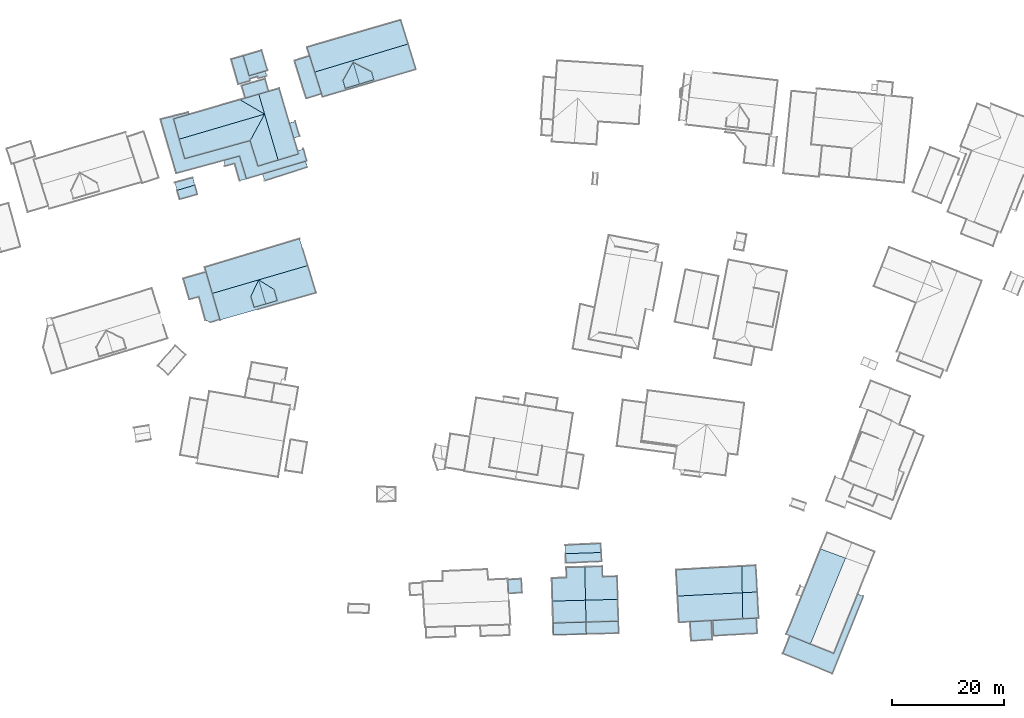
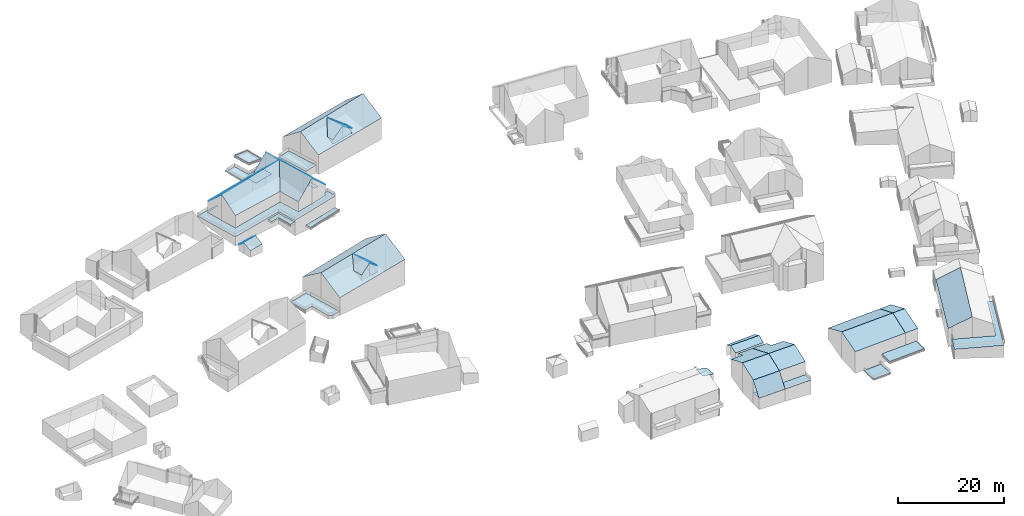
# Not in any storey, part 53 of 57: 86 roofs.
"""IFC2X3 building model written with IfcOpenShell, lengths in metres."""

from ifc_helpers import new_model, entity, si_unit, converted_unit, frame, origin, place, context, subcontext, project, spatial, face_set, surface_model, element, save


model = new_model("IFC2X3")

# Units and contexts
model_context = context("Model", 3, precision=1e-05, world=origin())
body_context = subcontext(model_context, "Body", "Model", "MODEL_VIEW")
ifc_project = project(units=[converted_unit("PLANEANGLEUNIT", "DEGREE", entity("IfcRatioMeasure", 0.0174532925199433), si_unit("PLANEANGLEUNIT", "RADIAN"), dimensions=[0, 0, 0, 0, 0, 0, 0]), si_unit("AREAUNIT", "SQUARE_METRE"), si_unit("LENGTHUNIT", "METRE")], contexts=[model_context])

# Site, building
site_placement = place(None, origin())
site = spatial("IfcSite", under=ifc_project, at=site_placement, Name="_site", CompositionType="ELEMENT")
building_1_placement = place(site_placement, origin())
building_1 = spatial("IfcBuilding", under=site, at=building_1_placement, Name="_building", CompositionType="ELEMENT")

# Roofs
roof_1_placement = place(building_1_placement, origin())
element("IfcRoof", 1, at=roof_1_placement, inside=building_1, Name="Roof", ShapeType="NOTDEFINED", context=body_context, shape_type="SurfaceModel", body=[
    surface_model("IfcFaceBasedSurfaceModel", [(217.513, 63.715, 111.83), (217.379, 69.629, 109.47), (214.115, 69.536, 109.47), (214.162, 67.713, 110.22), (211.529, 67.635, 110.18), (211.654, 63.559, 111.83)], [face_set([[[0, 1, 2, 3, 4, 5]]])]),
])
roof_2_placement = place(building_1_placement, origin())
element("IfcRoof", 2, at=roof_2_placement, inside=building_1, Name="Roof", ShapeType="NOTDEFINED", context=body_context, shape_type="SurfaceModel", body=[
    surface_model("IfcFaceBasedSurfaceModel", [(211.654, 63.559, 111.83), (211.762, 59.644, 110.18), (217.602, 59.81, 110.18), (217.513, 63.715, 111.83)], [face_set([[[0, 1, 2, 3]]])]),
])
roof_3_placement = place(building_1_placement, origin())
element("IfcRoof", 3, at=roof_3_placement, inside=building_1, Name="Roof", ShapeType="NOTDEFINED", context=body_context, shape_type="SurfaceModel", body=[
    surface_model("IfcFaceBasedSurfaceModel", [(217.513, 63.715, 111.83), (217.379, 69.629, 109.47), (214.115, 69.536, 109.47), (214.162, 67.713, 110.22), (211.529, 67.635, 110.18), (211.654, 63.559, 111.83)], [face_set([[[0, 1, 2, 3, 4, 5]]])]),
])
roof_4_placement = place(building_1_placement, origin())
element("IfcRoof", 4, at=roof_4_placement, inside=building_1, Name="Roof", ShapeType="NOTDEFINED", context=body_context, shape_type="SurfaceModel", body=[
    surface_model("IfcFaceBasedSurfaceModel", [(211.654, 63.559, 111.83), (211.762, 59.644, 110.18), (217.602, 59.81, 110.18), (217.513, 63.715, 111.83)], [face_set([[[0, 1, 2, 3]]])]),
])
roof_5_placement = place(building_1_placement, origin())
element("IfcRoof", 5, at=roof_5_placement, inside=building_1, Name="Roof", ShapeType="NOTDEFINED", context=body_context, shape_type="SurfaceModel", body=[
    surface_model("IfcFaceBasedSurfaceModel", [(211.762, 59.644, 110.18), (211.823, 57.552, 107.186), (217.65, 57.706, 107.17), (217.602, 59.81, 110.18)], [face_set([[[0, 1, 2, 3]]])]),
])
for number, where, name in (
    (6, (0.0, 0.0, 0.0), "Roof"),
    (7, (0.0, 0.0, 0.0), "Roof"),
):
    element("IfcRoof", number, at=place(building_1_placement, frame(where)), inside=building_1, Name=name, ShapeType="NOTDEFINED", context=body_context, shape_type="SurfaceModel", body=[
        surface_model("IfcFaceBasedSurfaceModel", [(217.65, 57.706, 107.22), (217.602, 59.81, 107.22), (211.762, 59.644, 107.22), (211.823, 57.552, 107.22)], [face_set([[[0, 1, 2, 3]]])]),
    ])
roof_6_placement = place(building_1_placement, origin())
element("IfcRoof", 8, at=roof_6_placement, inside=building_1, Name="Roof", ShapeType="NOTDEFINED", context=body_context, shape_type="SurfaceModel", body=[
    surface_model("IfcFaceBasedSurfaceModel", [(211.762, 59.644, 110.18), (211.823, 57.552, 107.186), (217.65, 57.706, 107.17), (217.602, 59.81, 110.18)], [face_set([[[0, 1, 2, 3]]])]),
])

# Building
building_2_placement = place(site_placement, origin())
building_2 = spatial("IfcBuilding", under=site, at=building_2_placement, Name="_building", CompositionType="ELEMENT")

# Roofs
roof_7_placement = place(building_2_placement, origin())
element("IfcRoof", 9, at=roof_7_placement, inside=building_2, Name="Roof", ShapeType="NOTDEFINED", context=body_context, shape_type="SurfaceModel", body=[
    surface_model("IfcFaceBasedSurfaceModel", [(168.113, 123.235, 120.71), (166.664, 128.012, 117.28), (149.794, 122.923, 117.33), (151.147, 118.279, 120.64), (159.38, 120.687, 120.674)], [face_set([[[0, 1, 2, 3, 4]]])]),
])
roof_8_placement = place(building_2_placement, origin())
element("IfcRoof", 10, at=roof_8_placement, inside=building_2, Name="Roof", ShapeType="NOTDEFINED", context=body_context, shape_type="SurfaceModel", body=[
    surface_model("IfcFaceBasedSurfaceModel", [(159.38, 120.687, 120.674), (157.999, 117.768, 119.0), (158.583, 115.793, 119.0), (160.648, 116.395, 120.67)], [face_set([[[0, 1, 2, 3]]])]),
])
roof_9_placement = place(building_2_placement, origin())
element("IfcRoof", 11, at=roof_9_placement, inside=building_2, Name="Roof", ShapeType="NOTDEFINED", context=body_context, shape_type="SurfaceModel", body=[
    surface_model("IfcFaceBasedSurfaceModel", [(159.38, 120.687, 120.674), (160.648, 116.395, 120.67), (162.704, 116.998, 119.01), (162.129, 118.973, 119.014)], [face_set([[[0, 1, 2, 3]]])]),
])
roof_10_placement = place(building_2_placement, origin())
element("IfcRoof", 12, at=roof_10_placement, inside=building_2, Name="Roof", ShapeType="NOTDEFINED", context=body_context, shape_type="SurfaceModel", body=[
    surface_model("IfcFaceBasedSurfaceModel", [(159.38, 120.687, 120.674), (151.147, 118.279, 120.64), (152.527, 113.543, 117.24), (169.581, 118.397, 117.21), (168.113, 123.235, 120.71)], [face_set([[[0, 1, 2, 3, 4]]])]),
])
roof_11_placement = place(building_2_placement, origin())
element("IfcRoof", 13, at=roof_11_placement, inside=building_2, Name="Roof", ShapeType="NOTDEFINED", context=body_context, shape_type="SurfaceModel", body=[
    surface_model("IfcFaceBasedSurfaceModel", [(168.113, 123.235, 120.71), (166.664, 128.012, 117.28), (149.794, 122.923, 117.33), (151.147, 118.279, 120.64), (159.38, 120.687, 120.674)], [face_set([[[0, 1, 2, 3, 4]]])]),
])
roof_12_placement = place(building_2_placement, origin())
element("IfcRoof", 14, at=roof_12_placement, inside=building_2, Name="Roof", ShapeType="NOTDEFINED", context=body_context, shape_type="SurfaceModel", body=[
    surface_model("IfcFaceBasedSurfaceModel", [(159.38, 120.687, 120.674), (160.648, 116.395, 120.67), (162.704, 116.998, 119.01), (162.129, 118.973, 119.014)], [face_set([[[0, 1, 2, 3]]])]),
])
roof_13_placement = place(building_2_placement, origin())
element("IfcRoof", 15, at=roof_13_placement, inside=building_2, Name="Roof", ShapeType="NOTDEFINED", context=body_context, shape_type="SurfaceModel", body=[
    surface_model("IfcFaceBasedSurfaceModel", [(159.38, 120.687, 120.674), (157.999, 117.768, 119.0), (158.583, 115.793, 119.0), (160.648, 116.395, 120.67)], [face_set([[[0, 1, 2, 3]]])]),
])
roof_14_placement = place(building_2_placement, origin())
element("IfcRoof", 16, at=roof_14_placement, inside=building_2, Name="Roof", ShapeType="NOTDEFINED", context=body_context, shape_type="SurfaceModel", body=[
    surface_model("IfcFaceBasedSurfaceModel", [(160.648, 116.395, 117.584), (162.704, 116.998, 117.593), (162.129, 118.973, 119.013), (159.38, 120.687, 120.673), (157.999, 117.768, 118.999), (158.583, 115.793, 117.577)], [face_set([[[0, 1, 2, 3, 4, 5]]])]),
])
for number, where, name in (
    (17, (0.0, 0.0, 0.0), "Roof"),
    (18, (0.0, 0.0, 0.0), "Roof"),
):
    element("IfcRoof", number, at=place(building_2_placement, frame(where)), inside=building_2, Name=name, ShapeType="NOTDEFINED", context=body_context, shape_type="SurfaceModel", body=[
        surface_model("IfcFaceBasedSurfaceModel", [(152.489, 113.665, 114.06), (150.035, 122.097, 114.06), (145.975, 120.931, 114.06), (147.059, 117.204, 114.06), (148.781, 117.684, 114.06), (149.915, 113.545, 114.06), (150.765, 113.115, 114.06)], [face_set([[[0, 1, 2, 3, 4, 5, 6]]])]),
    ])
roof_15_placement = place(building_2_placement, origin())
element("IfcRoof", 19, at=roof_15_placement, inside=building_2, Name="Roof", ShapeType="NOTDEFINED", context=body_context, shape_type="SurfaceModel", body=[
    surface_model("IfcFaceBasedSurfaceModel", [(159.38, 120.687, 120.674), (151.147, 118.279, 120.64), (152.527, 113.543, 117.24), (169.581, 118.397, 117.21), (168.113, 123.235, 120.71)], [face_set([[[0, 1, 2, 3, 4]]])]),
])

# Building
building_3_placement = place(site_placement, origin())
building_3 = spatial("IfcBuilding", under=site, at=building_3_placement, Name="_building", CompositionType="ELEMENT")

# Roofs
roof_16_placement = place(building_3_placement, origin())
element("IfcRoof", 20, at=roof_16_placement, inside=building_3, Name="Roof", ShapeType="NOTDEFINED", context=body_context, shape_type="SurfaceModel", body=[
    surface_model("IfcFaceBasedSurfaceModel", [(253.875, 57.367, 106.24), (252.611, 54.225, 106.24), (261.413, 50.677, 106.24), (266.937, 64.396, 106.24), (265.906, 64.801, 106.24), (261.656, 54.234, 106.24), (257.513, 55.902, 106.24)], [face_set([[[0, 1, 2, 3, 4, 5, 6]]])]),
])
for number, where, name in (
    (21, (0.0, 0.0, 0.0), "Roof"),
    (22, (0.0, 0.0, 0.0), "Roof"),
):
    element("IfcRoof", number, at=place(building_3_placement, frame(where)), inside=building_3, Name=name, ShapeType="NOTDEFINED", context=body_context, shape_type="SurfaceModel", body=[
        surface_model("IfcFaceBasedSurfaceModel", [(263.756, 71.207, 111.04), (259.33, 72.84, 108.76), (253.21, 57.623, 108.76), (253.875, 57.367, 109.11), (257.513, 55.902, 111.04)], [face_set([[[0, 1, 2, 3, 4]]])]),
    ])
roof_17_placement = place(building_3_placement, origin())
element("IfcRoof", 23, at=roof_17_placement, inside=building_3, Name="Roof", ShapeType="NOTDEFINED", context=body_context, shape_type="SurfaceModel", body=[
    surface_model("IfcFaceBasedSurfaceModel", [(253.875, 57.367, 106.24), (252.611, 54.225, 106.24), (261.413, 50.677, 106.24), (266.937, 64.396, 106.24), (265.906, 64.801, 106.24), (261.656, 54.234, 106.24), (257.513, 55.902, 106.24)], [face_set([[[0, 1, 2, 3, 4, 5, 6]]])]),
])

# Building
building_4_placement = place(site_placement, origin())
building_4 = spatial("IfcBuilding", under=site, at=building_4_placement, Name="_building", CompositionType="ELEMENT")

# Roofs
for number, where, name in (
    (24, (0.0, 0.0, 0.0), "Roof"),
    (25, (0.0, 0.0, 0.0), "Roof"),
):
    element("IfcRoof", number, at=place(building_4_placement, frame(where)), inside=building_4, Name=name, ShapeType="NOTDEFINED", context=body_context, shape_type="SurfaceModel", body=[
        surface_model("IfcFaceBasedSurfaceModel", [(240.15, 60.1, 106.04), (240.307, 57.395, 105.77), (248.052, 57.824, 105.78), (247.905, 60.529, 106.0)], [face_set([[[0, 1, 2, 3]]])]),
    ])

# Building
building_5_placement = place(site_placement, origin())
building_5 = spatial("IfcBuilding", under=site, at=building_5_placement, Name="_building", CompositionType="ELEMENT")

# Roofs
for number, where, name in (
    (26, (0.0, 0.0, 0.0), "Roof"),
    (27, (0.0, 0.0, 0.0), "Roof"),
):
    element("IfcRoof", number, at=place(building_5_placement, frame(where)), inside=building_5, Name=name, ShapeType="NOTDEFINED", context=body_context, shape_type="SurfaceModel", body=[
        surface_model("IfcFaceBasedSurfaceModel", [(153.191, 141.936, 117.923), (153.387, 140.91, 117.923), (155.129, 141.38, 117.923), (155.998, 138.288, 117.923), (157.217, 138.67, 117.923), (155.991, 142.701, 117.923)], [face_set([[[0, 1, 2, 3, 4, 5]]])]),
    ])
for number, where, name in (
    (28, (0.0, 0.0, 0.0), "Roof"),
    (29, (0.0, 0.0, 0.0), "Roof"),
):
    element("IfcRoof", number, at=place(building_5_placement, frame(where)), inside=building_5, Name=name, ShapeType="NOTDEFINED", context=body_context, shape_type="SurfaceModel", body=[
        surface_model("IfcFaceBasedSurfaceModel", [(157.217, 138.67, 118.198), (167.948, 141.84, 118.257), (167.348, 143.976, 118.257), (166.311, 143.631, 118.257), (166.476, 143.076, 118.249), (162.848, 141.98, 118.198), (159.281, 140.902, 118.198), (157.866, 145.438, 118.198), (146.244, 142.228, 118.198), (145.265, 145.713, 118.198), (144.258, 149.309, 118.198), (147.0, 150.104, 118.198), (146.887, 150.468, 118.198), (141.935, 149.254, 118.198), (144.742, 139.642, 118.198), (155.991, 142.701, 118.198)], [face_set([[[0, 1, 2, 3, 4, 5, 6, 7, 8, 9, 10, 11, 12, 13, 14, 15]]])]),
    ])

# Building
building_6_placement = place(site_placement, origin())
building_6 = spatial("IfcBuilding", under=site, at=building_6_placement, Name="_building", CompositionType="ELEMENT")

# Roofs
roof_18_placement = place(building_6_placement, origin())
element("IfcRoof", 30, at=roof_18_placement, inside=building_6, Name="Roof", ShapeType="NOTDEFINED", context=body_context, shape_type="SurfaceModel", body=[
    surface_model("IfcFaceBasedSurfaceModel", [(220.301, 72.202, 109.9), (220.228, 73.795, 109.18), (213.898, 73.513, 109.1), (213.962, 71.991, 109.9)], [face_set([[[0, 1, 2, 3]]])]),
])
roof_19_placement = place(building_6_placement, origin())
element("IfcRoof", 31, at=roof_19_placement, inside=building_6, Name="Roof", ShapeType="NOTDEFINED", context=body_context, shape_type="SurfaceModel", body=[
    surface_model("IfcFaceBasedSurfaceModel", [(213.962, 71.991, 109.9), (214.034, 70.338, 109.1), (220.374, 70.62, 109.18), (220.301, 72.202, 109.9)], [face_set([[[0, 1, 2, 3]]])]),
])
roof_20_placement = place(building_6_placement, origin())
element("IfcRoof", 32, at=roof_20_placement, inside=building_6, Name="Roof", ShapeType="NOTDEFINED", context=body_context, shape_type="SurfaceModel", body=[
    surface_model("IfcFaceBasedSurfaceModel", [(220.301, 72.202, 109.9), (220.228, 73.795, 109.18), (213.898, 73.513, 109.1), (213.962, 71.991, 109.9)], [face_set([[[0, 1, 2, 3]]])]),
])
roof_21_placement = place(building_6_placement, origin())
element("IfcRoof", 33, at=roof_21_placement, inside=building_6, Name="Roof", ShapeType="NOTDEFINED", context=body_context, shape_type="SurfaceModel", body=[
    surface_model("IfcFaceBasedSurfaceModel", [(213.962, 71.991, 109.9), (214.034, 70.338, 109.1), (220.374, 70.62, 109.18), (220.301, 72.202, 109.9)], [face_set([[[0, 1, 2, 3]]])]),
])

# Building
building_7_placement = place(site_placement, origin())
building_7 = spatial("IfcBuilding", under=site, at=building_7_placement, Name="_building", CompositionType="ELEMENT")

# Roofs
roof_22_placement = place(building_7_placement, origin())
element("IfcRoof", 34, at=roof_22_placement, inside=building_7, Name="Roof", ShapeType="NOTDEFINED", context=body_context, shape_type="SurfaceModel", body=[
    surface_model("IfcFaceBasedSurfaceModel", [(248.054, 65.179, 110.65), (247.794, 69.898, 108.77), (245.299, 69.756, 108.77), (245.391, 65.042, 110.65)], [face_set([[[0, 1, 2, 3]]])]),
])
roof_23_placement = place(building_7_placement, origin())
element("IfcRoof", 35, at=roof_23_placement, inside=building_7, Name="Roof", ShapeType="NOTDEFINED", context=body_context, shape_type="SurfaceModel", body=[
    surface_model("IfcFaceBasedSurfaceModel", [(248.054, 65.179, 110.65), (245.391, 65.042, 110.65), (245.481, 60.396, 108.78), (248.306, 60.55, 108.77)], [face_set([[[0, 1, 2, 3]]])]),
])
roof_24_placement = place(building_7_placement, origin())
element("IfcRoof", 36, at=roof_24_placement, inside=building_7, Name="Roof", ShapeType="NOTDEFINED", context=body_context, shape_type="SurfaceModel", body=[
    surface_model("IfcFaceBasedSurfaceModel", [(248.054, 65.179, 110.65), (247.794, 69.898, 108.77), (245.299, 69.756, 108.77), (245.391, 65.042, 110.65)], [face_set([[[0, 1, 2, 3]]])]),
])
roof_25_placement = place(building_7_placement, origin())
element("IfcRoof", 37, at=roof_25_placement, inside=building_7, Name="Roof", ShapeType="NOTDEFINED", context=body_context, shape_type="SurfaceModel", body=[
    surface_model("IfcFaceBasedSurfaceModel", [(248.054, 65.179, 110.65), (245.391, 65.042, 110.65), (245.481, 60.396, 108.78), (248.306, 60.55, 108.77)], [face_set([[[0, 1, 2, 3]]])]),
])

# Building
building_8_placement = place(site_placement, origin())
building_8 = spatial("IfcBuilding", under=site, at=building_8_placement, Name="_building", CompositionType="ELEMENT")

# Roofs
roof_26_placement = place(building_8_placement, origin())
element("IfcRoof", 38, at=roof_26_placement, inside=building_8, Name="Roof", ShapeType="NOTDEFINED", context=body_context, shape_type="SurfaceModel", body=[
    surface_model("IfcFaceBasedSurfaceModel", [(162.848, 141.98, 124.06), (166.476, 143.076, 120.53), (166.311, 143.631, 120.53), (165.642, 145.907, 120.53), (164.844, 148.577, 120.52), (163.027, 154.733, 120.51), (159.41, 153.697, 124.08), (160.438, 150.171, 124.074)], [face_set([[[0, 1, 2, 3, 4, 5, 6, 7]]])]),
])
roof_27_placement = place(building_8_placement, origin())
element("IfcRoof", 39, at=roof_27_placement, inside=building_8, Name="Roof", ShapeType="NOTDEFINED", context=body_context, shape_type="SurfaceModel", body=[
    surface_model("IfcFaceBasedSurfaceModel", [(160.438, 150.171, 124.074), (159.41, 153.697, 124.08), (156.055, 152.725, 120.64)], [face_set([[[0, 1, 2]]])]),
])
roof_28_placement = place(building_8_placement, origin())
element("IfcRoof", 40, at=roof_28_placement, inside=building_8, Name="Roof", ShapeType="NOTDEFINED", context=body_context, shape_type="SurfaceModel", body=[
    surface_model("IfcFaceBasedSurfaceModel", [(156.055, 152.725, 120.64), (147.0, 150.104, 120.732), (144.258, 149.309, 120.76), (145.265, 145.713, 124.08), (160.438, 150.171, 124.08)], [face_set([[[0, 1, 2, 3, 4]]])]),
])
roof_29_placement = place(building_8_placement, origin())
element("IfcRoof", 41, at=roof_29_placement, inside=building_8, Name="Roof", ShapeType="NOTDEFINED", context=body_context, shape_type="SurfaceModel", body=[
    surface_model("IfcFaceBasedSurfaceModel", [(145.265, 145.713, 124.08), (146.244, 142.228, 121.03), (157.866, 145.438, 120.59), (160.438, 150.171, 124.08)], [face_set([[[0, 1, 2, 3]]])]),
])
roof_30_placement = place(building_8_placement, origin())
element("IfcRoof", 42, at=roof_30_placement, inside=building_8, Name="Roof", ShapeType="NOTDEFINED", context=body_context, shape_type="SurfaceModel", body=[
    surface_model("IfcFaceBasedSurfaceModel", [(160.438, 150.171, 124.074), (157.866, 145.438, 120.59), (159.281, 140.902, 120.44), (162.848, 141.98, 124.06)], [face_set([[[0, 1, 2, 3]]])]),
])
roof_31_placement = place(building_8_placement, origin())
element("IfcRoof", 43, at=roof_31_placement, inside=building_8, Name="Roof", ShapeType="NOTDEFINED", context=body_context, shape_type="SurfaceModel", body=[
    surface_model("IfcFaceBasedSurfaceModel", [(164.844, 148.577, 118.31), (165.642, 145.907, 118.3), (166.659, 146.203, 118.24), (165.872, 148.883, 118.24)], [face_set([[[0, 1, 2, 3]]])]),
])
roof_32_placement = place(building_8_placement, origin())
element("IfcRoof", 44, at=roof_32_placement, inside=building_8, Name="Roof", ShapeType="NOTDEFINED", context=body_context, shape_type="SurfaceModel", body=[
    surface_model("IfcFaceBasedSurfaceModel", [(162.848, 141.98, 124.06), (166.476, 143.076, 120.53), (166.311, 143.631, 120.53), (165.642, 145.907, 120.53), (164.844, 148.577, 120.52), (163.027, 154.733, 120.51), (159.41, 153.697, 124.08), (160.438, 150.171, 124.074)], [face_set([[[0, 1, 2, 3, 4, 5, 6, 7]]])]),
])
roof_33_placement = place(building_8_placement, origin())
element("IfcRoof", 45, at=roof_33_placement, inside=building_8, Name="Roof", ShapeType="NOTDEFINED", context=body_context, shape_type="SurfaceModel", body=[
    surface_model("IfcFaceBasedSurfaceModel", [(160.438, 150.171, 124.074), (159.41, 153.697, 124.08), (156.055, 152.725, 120.64)], [face_set([[[0, 1, 2]]])]),
])
roof_34_placement = place(building_8_placement, origin())
element("IfcRoof", 46, at=roof_34_placement, inside=building_8, Name="Roof", ShapeType="NOTDEFINED", context=body_context, shape_type="SurfaceModel", body=[
    surface_model("IfcFaceBasedSurfaceModel", [(156.055, 152.725, 120.64), (147.0, 150.104, 120.732), (144.258, 149.309, 120.76), (145.265, 145.713, 124.08), (160.438, 150.171, 124.08)], [face_set([[[0, 1, 2, 3, 4]]])]),
])
roof_35_placement = place(building_8_placement, origin())
element("IfcRoof", 47, at=roof_35_placement, inside=building_8, Name="Roof", ShapeType="NOTDEFINED", context=body_context, shape_type="SurfaceModel", body=[
    surface_model("IfcFaceBasedSurfaceModel", [(160.438, 150.171, 124.074), (157.866, 145.438, 120.59), (159.281, 140.902, 120.44), (162.848, 141.98, 124.06)], [face_set([[[0, 1, 2, 3]]])]),
])
roof_36_placement = place(building_8_placement, origin())
element("IfcRoof", 48, at=roof_36_placement, inside=building_8, Name="Roof", ShapeType="NOTDEFINED", context=body_context, shape_type="SurfaceModel", body=[
    surface_model("IfcFaceBasedSurfaceModel", [(145.265, 145.713, 124.08), (146.244, 142.228, 121.03), (157.866, 145.438, 120.59), (160.438, 150.171, 124.08)], [face_set([[[0, 1, 2, 3]]])]),
])
for number, where, name in (
    (49, (0.0, 0.0, 0.0), "Roof"),
    (50, (0.0, 0.0, 0.0), "Roof"),
):
    element("IfcRoof", number, at=place(building_8_placement, frame(where)), inside=building_8, Name=name, ShapeType="NOTDEFINED", context=body_context, shape_type="SurfaceModel", body=[
        surface_model("IfcFaceBasedSurfaceModel", [(157.013, 153.003, 118.17), (161.163, 154.207, 118.17), (160.515, 156.433, 118.17), (156.364, 155.229, 118.17)], [face_set([[[0, 1, 2, 3]]])]),
    ])
roof_37_placement = place(building_8_placement, origin())
element("IfcRoof", 51, at=roof_37_placement, inside=building_8, Name="Roof", ShapeType="NOTDEFINED", context=body_context, shape_type="SurfaceModel", body=[
    surface_model("IfcFaceBasedSurfaceModel", [(164.844, 148.577, 118.31), (165.642, 145.907, 118.3), (166.659, 146.203, 118.24), (165.872, 148.883, 118.24)], [face_set([[[0, 1, 2, 3]]])]),
])

# Building
building_9_placement = place(site_placement, origin())
building_9 = spatial("IfcBuilding", under=site, at=building_9_placement, Name="_building", CompositionType="ELEMENT")

# Roofs
roof_38_placement = place(building_9_placement, origin())
element("IfcRoof", 52, at=roof_38_placement, inside=building_9, Name="Roof", ShapeType="NOTDEFINED", context=body_context, shape_type="SurfaceModel", body=[
    surface_model("IfcFaceBasedSurfaceModel", [(144.871, 136.607, 118.63), (145.345, 135.025, 117.57), (148.477, 135.892, 117.53), (148.035, 137.544, 118.63)], [face_set([[[0, 1, 2, 3]]])]),
])
roof_39_placement = place(building_9_placement, origin())
element("IfcRoof", 53, at=roof_39_placement, inside=building_9, Name="Roof", ShapeType="NOTDEFINED", context=body_context, shape_type="SurfaceModel", body=[
    surface_model("IfcFaceBasedSurfaceModel", [(148.035, 137.544, 118.63), (147.676, 138.873, 117.46), (144.464, 137.997, 117.49), (144.871, 136.607, 118.63)], [face_set([[[0, 1, 2, 3]]])]),
])
roof_40_placement = place(building_9_placement, origin())
element("IfcRoof", 54, at=roof_40_placement, inside=building_9, Name="Roof", ShapeType="NOTDEFINED", context=body_context, shape_type="SurfaceModel", body=[
    surface_model("IfcFaceBasedSurfaceModel", [(144.871, 136.607, 118.63), (145.345, 135.025, 117.57), (148.477, 135.892, 117.53), (148.035, 137.544, 118.63)], [face_set([[[0, 1, 2, 3]]])]),
])
roof_41_placement = place(building_9_placement, origin())
element("IfcRoof", 55, at=roof_41_placement, inside=building_9, Name="Roof", ShapeType="NOTDEFINED", context=body_context, shape_type="SurfaceModel", body=[
    surface_model("IfcFaceBasedSurfaceModel", [(148.035, 137.544, 118.63), (147.676, 138.873, 117.46), (144.464, 137.997, 117.49), (144.871, 136.607, 118.63)], [face_set([[[0, 1, 2, 3]]])]),
])

# Building
building_10_placement = place(site_placement, origin())
building_10 = spatial("IfcBuilding", under=site, at=building_10_placement, Name="_building", CompositionType="ELEMENT")

# Roofs
roof_42_placement = place(building_10_placement, origin())
element("IfcRoof", 56, at=roof_42_placement, inside=building_10, Name="Roof", ShapeType="NOTDEFINED", context=body_context, shape_type="SurfaceModel", body=[
    surface_model("IfcFaceBasedSurfaceModel", [(185.956, 162.642, 122.98), (184.645, 166.905, 119.31), (167.981, 162.062, 119.56), (169.369, 157.647, 123.0)], [face_set([[[0, 1, 2, 3]]])]),
])
roof_43_placement = place(building_10_placement, origin())
element("IfcRoof", 57, at=roof_43_placement, inside=building_10, Name="Roof", ShapeType="NOTDEFINED", context=body_context, shape_type="SurfaceModel", body=[
    surface_model("IfcFaceBasedSurfaceModel", [(174.377, 156.139, 120.957), (174.794, 154.738, 120.96), (177.323, 155.5, 122.77), (176.183, 159.368, 122.772)], [face_set([[[0, 1, 2, 3]]])]),
])
roof_44_placement = place(building_10_placement, origin())
element("IfcRoof", 58, at=roof_44_placement, inside=building_10, Name="Roof", ShapeType="NOTDEFINED", context=body_context, shape_type="SurfaceModel", body=[
    surface_model("IfcFaceBasedSurfaceModel", [(169.369, 157.647, 123.0), (170.747, 153.242, 119.77), (187.351, 158.117, 119.57), (185.956, 162.642, 122.98)], [face_set([[[0, 1, 2, 3]]])]),
])
roof_45_placement = place(building_10_placement, origin())
element("IfcRoof", 59, at=roof_45_placement, inside=building_10, Name="Roof", ShapeType="NOTDEFINED", context=body_context, shape_type="SurfaceModel", body=[
    surface_model("IfcFaceBasedSurfaceModel", [(185.956, 162.642, 122.98), (184.645, 166.905, 119.31), (167.981, 162.062, 119.56), (169.369, 157.647, 123.0)], [face_set([[[0, 1, 2, 3]]])]),
])
roof_46_placement = place(building_10_placement, origin())
element("IfcRoof", 60, at=roof_46_placement, inside=building_10, Name="Roof", ShapeType="NOTDEFINED", context=body_context, shape_type="SurfaceModel", body=[
    surface_model("IfcFaceBasedSurfaceModel", [(169.369, 157.647, 123.0), (170.747, 153.242, 119.77), (187.351, 158.117, 119.57), (185.956, 162.642, 122.98)], [face_set([[[0, 1, 2, 3]]])]),
])
roof_47_placement = place(building_10_placement, origin())
element("IfcRoof", 61, at=roof_47_placement, inside=building_10, Name="Roof", ShapeType="NOTDEFINED", context=body_context, shape_type="SurfaceModel", body=[
    surface_model("IfcFaceBasedSurfaceModel", [(174.377, 156.139, 120.957), (174.794, 154.738, 120.96), (177.323, 155.5, 122.77), (176.183, 159.368, 122.772)], [face_set([[[0, 1, 2, 3]]])]),
])
roof_48_placement = place(building_10_placement, origin())
element("IfcRoof", 62, at=roof_48_placement, inside=building_10, Name="Roof", ShapeType="NOTDEFINED", context=body_context, shape_type="SurfaceModel", body=[
    surface_model("IfcFaceBasedSurfaceModel", [(177.323, 155.5, 122.77), (179.863, 156.271, 120.94), (179.456, 157.671, 120.944), (176.183, 159.368, 122.772)], [face_set([[[0, 1, 2, 3]]])]),
])
roof_49_placement = place(building_10_placement, origin())
element("IfcRoof", 63, at=roof_49_placement, inside=building_10, Name="Roof", ShapeType="NOTDEFINED", context=body_context, shape_type="SurfaceModel", body=[
    surface_model("IfcFaceBasedSurfaceModel", [(176.183, 159.368, 122.773), (174.377, 156.139, 120.949), (174.794, 154.738, 119.909), (177.323, 155.5, 119.905), (179.863, 156.271, 119.904), (179.456, 157.671, 120.941)], [face_set([[[0, 1, 2, 3, 4, 5]]])]),
])
for number, where, name in (
    (64, (0.0, 0.0, 0.0), "Roof"),
    (65, (0.0, 0.0, 0.0), "Roof"),
):
    element("IfcRoof", number, at=place(building_10_placement, frame(where)), inside=building_10, Name=name, ShapeType="NOTDEFINED", context=body_context, shape_type="SurfaceModel", body=[
        surface_model("IfcFaceBasedSurfaceModel", [(167.868, 152.949, 117.155), (170.569, 153.797, 117.155), (168.465, 160.52, 117.155), (165.764, 159.672, 117.155)], [face_set([[[0, 1, 2, 3]]])]),
    ])
roof_50_placement = place(building_10_placement, origin())
element("IfcRoof", 66, at=roof_50_placement, inside=building_10, Name="Roof", ShapeType="NOTDEFINED", context=body_context, shape_type="SurfaceModel", body=[
    surface_model("IfcFaceBasedSurfaceModel", [(177.323, 155.5, 122.77), (179.863, 156.271, 120.94), (179.456, 157.671, 120.944), (176.183, 159.368, 122.772)], [face_set([[[0, 1, 2, 3]]])]),
])

# Building
building_11_placement = place(site_placement, origin())
building_11 = spatial("IfcBuilding", under=site, at=building_11_placement, Name="_building", CompositionType="ELEMENT")

# Roofs
for number, where, name in (
    (67, (0.0, 0.0, 0.0), "Roof"),
    (68, (0.0, 0.0, 0.0), "Roof"),
):
    element("IfcRoof", number, at=place(building_11_placement, frame(where)), inside=building_11, Name=name, ShapeType="NOTDEFINED", context=body_context, shape_type="SurfaceModel", body=[
        surface_model("IfcFaceBasedSurfaceModel", [(160.96, 157.934, 119.51), (159.923, 161.49, 119.62), (156.659, 160.536, 120.16), (157.696, 156.98, 120.18)], [face_set([[[0, 1, 2, 3]]])]),
    ])
for number, where, name in (
    (69, (0.0, 0.0, 0.0), "Roof"),
    (70, (0.0, 0.0, 0.0), "Roof"),
):
    element("IfcRoof", number, at=place(building_11_placement, frame(where)), inside=building_11, Name=name, ShapeType="NOTDEFINED", context=body_context, shape_type="SurfaceModel", body=[
        surface_model("IfcFaceBasedSurfaceModel", [(157.906, 156.104, 117.65), (157.814, 156.446, 117.65), (159.244, 156.863, 117.65), (159.346, 156.521, 117.65), (160.837, 156.956, 117.65), (160.588, 157.823, 117.65), (157.696, 156.98, 117.65), (156.659, 160.536, 117.65), (154.503, 159.916, 117.65), (155.78, 155.493, 117.65)], [face_set([[[0, 1, 2, 3, 4, 5, 6, 7, 8, 9]]])]),
    ])

# Building
building_12_placement = place(site_placement, origin())
building_12 = spatial("IfcBuilding", under=site, at=building_12_placement, Name="_building", CompositionType="ELEMENT")

# Roofs
roof_51_placement = place(building_12_placement, origin())
element("IfcRoof", 71, at=roof_51_placement, inside=building_12, Name="Roof", ShapeType="NOTDEFINED", context=body_context, shape_type="SurfaceModel", body=[
    surface_model("IfcFaceBasedSurfaceModel", [(217.602, 59.81, 107.17), (217.65, 57.706, 107.17), (223.408, 57.861, 107.17), (223.357, 59.973, 107.17)], [face_set([[[0, 1, 2, 3]]])]),
])
roof_52_placement = place(building_12_placement, origin())
element("IfcRoof", 72, at=roof_52_placement, inside=building_12, Name="Roof", ShapeType="NOTDEFINED", context=body_context, shape_type="SurfaceModel", body=[
    surface_model("IfcFaceBasedSurfaceModel", [(223.248, 63.868, 111.83), (217.513, 63.715, 111.83), (217.602, 59.81, 110.18), (223.357, 59.973, 110.18)], [face_set([[[0, 1, 2, 3]]])]),
])
roof_53_placement = place(building_12_placement, origin())
element("IfcRoof", 73, at=roof_53_placement, inside=building_12, Name="Roof", ShapeType="NOTDEFINED", context=body_context, shape_type="SurfaceModel", body=[
    surface_model("IfcFaceBasedSurfaceModel", [(217.379, 69.629, 109.47), (217.513, 63.715, 111.83), (223.248, 63.868, 111.83), (223.123, 67.944, 110.14), (220.54, 67.874, 110.14), (220.493, 69.716, 109.47)], [face_set([[[0, 1, 2, 3, 4, 5]]])]),
])
roof_54_placement = place(building_12_placement, origin())
element("IfcRoof", 74, at=roof_54_placement, inside=building_12, Name="Roof", ShapeType="NOTDEFINED", context=body_context, shape_type="SurfaceModel", body=[
    surface_model("IfcFaceBasedSurfaceModel", [(217.602, 59.81, 107.17), (217.65, 57.706, 107.17), (223.408, 57.861, 107.17), (223.357, 59.973, 107.17)], [face_set([[[0, 1, 2, 3]]])]),
])
roof_55_placement = place(building_12_placement, origin())
element("IfcRoof", 75, at=roof_55_placement, inside=building_12, Name="Roof", ShapeType="NOTDEFINED", context=body_context, shape_type="SurfaceModel", body=[
    surface_model("IfcFaceBasedSurfaceModel", [(223.248, 63.868, 111.83), (217.513, 63.715, 111.83), (217.602, 59.81, 110.18), (223.357, 59.973, 110.18)], [face_set([[[0, 1, 2, 3]]])]),
])
roof_56_placement = place(building_12_placement, origin())
element("IfcRoof", 76, at=roof_56_placement, inside=building_12, Name="Roof", ShapeType="NOTDEFINED", context=body_context, shape_type="SurfaceModel", body=[
    surface_model("IfcFaceBasedSurfaceModel", [(217.379, 69.629, 109.47), (217.513, 63.715, 111.83), (223.248, 63.868, 111.83), (223.123, 67.944, 110.14), (220.54, 67.874, 110.14), (220.493, 69.716, 109.47)], [face_set([[[0, 1, 2, 3, 4, 5]]])]),
])

# Building
building_13_placement = place(site_placement, origin())
building_13 = spatial("IfcBuilding", under=site, at=building_13_placement, Name="_building", CompositionType="ELEMENT")

# Roofs
for number, where, name in (
    (77, (0.0, 0.0, 0.0), "Roof"),
    (78, (0.0, 0.0, 0.0), "Roof"),
):
    element("IfcRoof", number, at=place(building_13_placement, frame(where)), inside=building_13, Name=name, ShapeType="NOTDEFINED", context=body_context, shape_type="SurfaceModel", body=[
        surface_model("IfcFaceBasedSurfaceModel", [(160.059, 139.514, 115.67), (160.431, 138.314, 115.67), (168.062, 140.737, 115.67), (167.717, 141.776, 115.67)], [face_set([[[0, 1, 2, 3]]])]),
    ])

# Building
building_14_placement = place(site_placement, origin())
building_14 = spatial("IfcBuilding", under=site, at=building_14_placement, Name="_building", CompositionType="ELEMENT")

# Roofs
for number, where, name in (
    (79, (0.0, 0.0, 0.0), "Roof"),
    (80, (0.0, 0.0, 0.0), "Roof"),
):
    element("IfcRoof", number, at=place(building_14_placement, frame(where)), inside=building_14, Name=name, ShapeType="NOTDEFINED", context=body_context, shape_type="SurfaceModel", body=[
        surface_model("IfcFaceBasedSurfaceModel", [(203.688, 67.358, 110.71), (203.84, 64.913, 110.65), (206.235, 65.057, 110.24), (206.083, 67.512, 110.24)], [face_set([[[0, 1, 2, 3]]])]),
    ])

# Building
building_15_placement = place(site_placement, origin())
building_15 = spatial("IfcBuilding", under=site, at=building_15_placement, Name="_building", CompositionType="ELEMENT")

# Roofs
roof_57_placement = place(building_15_placement, origin())
element("IfcRoof", 81, at=roof_57_placement, inside=building_15, Name="Roof", ShapeType="NOTDEFINED", context=body_context, shape_type="SurfaceModel", body=[
    surface_model("IfcFaceBasedSurfaceModel", [(245.391, 65.042, 110.65), (245.299, 69.756, 108.77), (241.091, 69.524, 108.77), (239.208, 69.429, 108.77), (233.627, 69.118, 108.77), (233.888, 64.45, 110.65)], [face_set([[[0, 1, 2, 3, 4, 5]]])]),
])
for number, where, name in (
    (82, (0.0, 0.0, 0.0), "Roof"),
    (83, (0.0, 0.0, 0.0), "Roof"),
):
    element("IfcRoof", number, at=place(building_15_placement, frame(where)), inside=building_15, Name=name, ShapeType="NOTDEFINED", context=body_context, shape_type="SurfaceModel", body=[
        surface_model("IfcFaceBasedSurfaceModel", [(233.888, 64.45, 110.65), (234.139, 59.771, 108.8), (245.481, 60.396, 108.78), (245.391, 65.042, 110.65)], [face_set([[[0, 1, 2, 3]]])]),
    ])
roof_58_placement = place(building_15_placement, origin())
element("IfcRoof", 84, at=roof_58_placement, inside=building_15, Name="Roof", ShapeType="NOTDEFINED", context=body_context, shape_type="SurfaceModel", body=[
    surface_model("IfcFaceBasedSurfaceModel", [(245.391, 65.042, 110.65), (245.299, 69.756, 108.77), (241.091, 69.524, 108.77), (239.208, 69.429, 108.77), (233.627, 69.118, 108.77), (233.888, 64.45, 110.65)], [face_set([[[0, 1, 2, 3, 4, 5]]])]),
])
for number, where, name in (
    (85, (0.0, 0.0, 0.0), "Roof"),
    (86, (0.0, 0.0, 0.0), "Roof"),
):
    element("IfcRoof", number, at=place(building_15_placement, frame(where)), inside=building_15, Name=name, ShapeType="NOTDEFINED", context=body_context, shape_type="SurfaceModel", body=[
        surface_model("IfcFaceBasedSurfaceModel", [(236.304, 56.498, 103.72), (240.061, 56.701, 103.72), (239.88, 60.087, 103.72), (236.123, 59.884, 103.72)], [face_set([[[0, 1, 2, 3]]])]),
    ])

save(model, "model.ifc")
